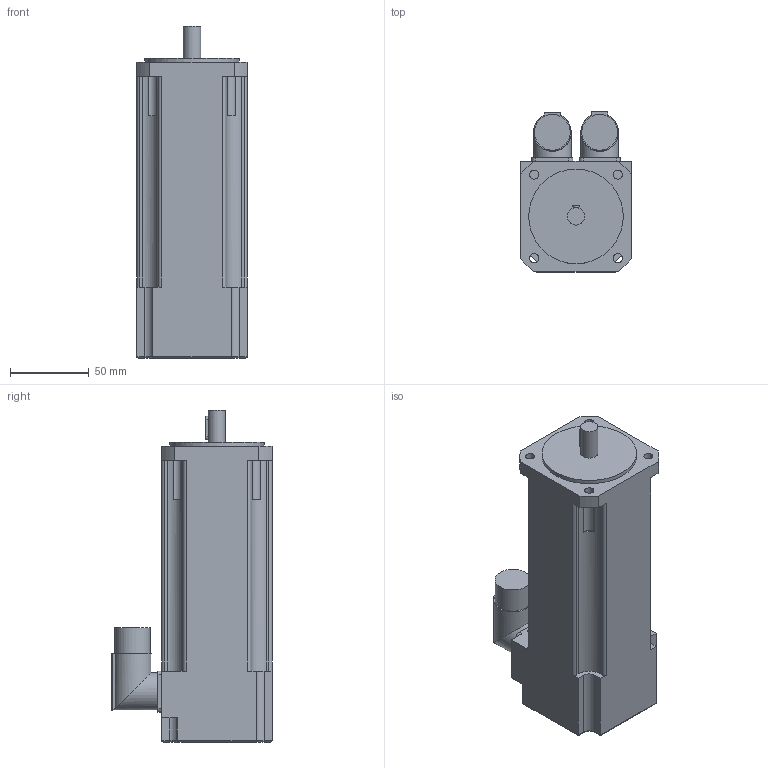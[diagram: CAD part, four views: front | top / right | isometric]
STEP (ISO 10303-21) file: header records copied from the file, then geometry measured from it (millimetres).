
FILE_DESCRIPTION(/* description */ (''),/* implementation_level */ '2;1');
FILE_NAME(/* name */ '\\Lafnas01\disegni\Archivi Lafert\3D\CAD 3D\MODELLI\Assiemi clienti\Serad\Modelli 3D Serad\B36Q\Encoder\Enc With brake\B36E8Qxx6BRx2033.ipt.stp',/* time_stamp */ '2015-09-07T10:49:20+02:00',/* author */ ('Pastrello Ylenia'),/* organization */ (''),/* preprocessor_version */ 'ST-DEVELOPER v15.6',/* originating_system */ 'Autodesk Inventor 2015',/* authorisation */ '');
FILE_SCHEMA (('AUTOMOTIVE_DESIGN { 1 0 10303 214 3 1 1 }'));
Length unit declared in the file: millimetre
Products named in the file (1): B36E8Qxx6BRx2033
Bounding box: 70 x 101.5 x 210.5 mm (x, y, z)
Volume: 880496.8 mm3; surface area: 70230.7 mm2
Topology: 1 solids, 1 shells, 121 faces, 322 edges, 210 vertices
Faces by surface type: plane 59, cylinder 58, torus 4
Full cylindrical faces by diameter (mm): 5.8 x4, 11 x1, 22.7 x2, 24 x2, 60 x1
Entity records: 3806 total; most frequent: CARTESIAN_POINT 678, DIRECTION 676, ORIENTED_EDGE 624, EDGE_CURVE 312, AXIS2_PLACEMENT_3D 244, VERTEX_POINT 210, LINE 188, VECTOR 188
